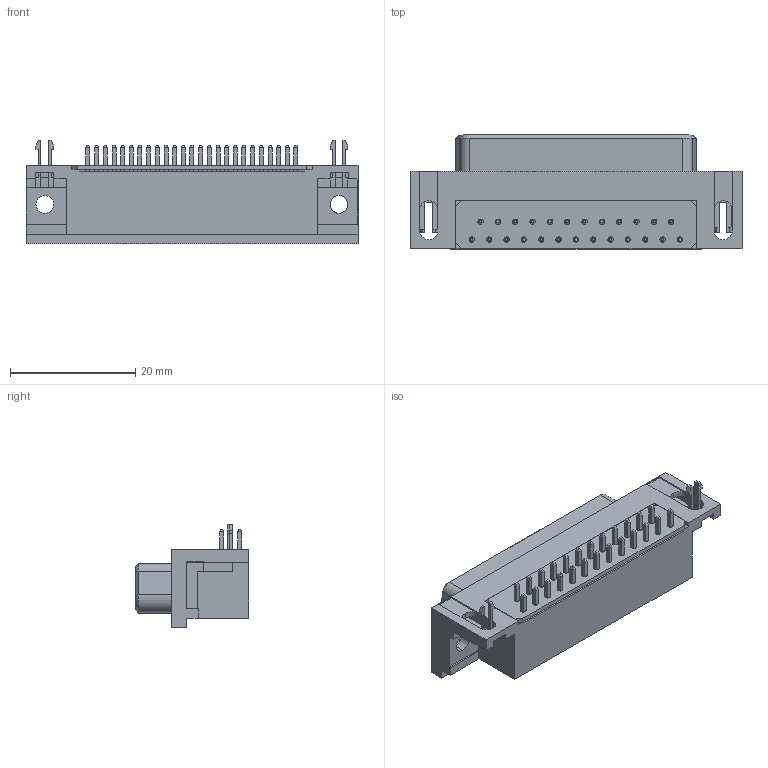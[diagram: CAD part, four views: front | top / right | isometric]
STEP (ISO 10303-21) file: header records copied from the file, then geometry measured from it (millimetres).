
FILE_DESCRIPTION (( 'STEP AP214' ), '1' );
FILE_NAME ('7926-25FBA.STEP', '2018-10-17T06:51:12', ( 'ADMIN' ), ( '' ), 'SwSTEP 2.0', 'SolidWorks 2011', '' );
FILE_SCHEMA (( 'AUTOMOTIVE_DESIGN' ));
Length unit declared in the file: millimetre
Products named in the file (7): SPIN; LPIN; L; R; 鐵; H; 7926-25FBA
Assembly tree (29 placements, depth 2):
  7926-25FBA
    LPIN  x13
    SPIN  x12
    R
    L
    H
    鐵
Bounding box: 53.04 x 18.2 x 16.49 mm (x, y, z)
Volume: 7896.6 mm3; surface area: 6759.6 mm2
Topology: 42 solids, 42 shells, 787 faces, 1730 edges, 1076 vertices
Faces by surface type: plane 465, cylinder 268, cone 54
Entity records: 17977 total; most frequent: CARTESIAN_POINT 3061, DIRECTION 2828, ORIENTED_EDGE 2540, EDGE_CURVE 1270, AXIS2_PLACEMENT_3D 1075, VERTEX_POINT 800, VECTOR 678, LINE 678
